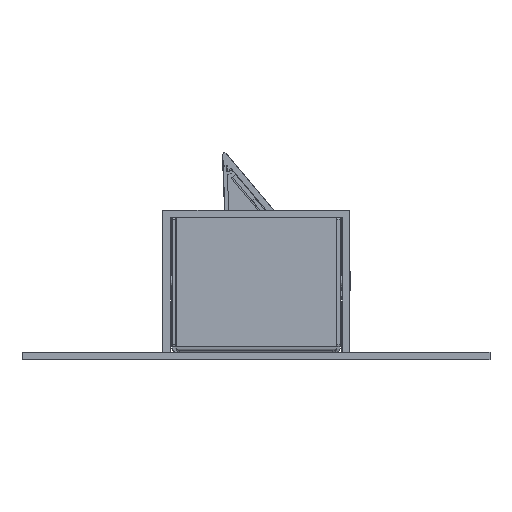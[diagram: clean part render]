
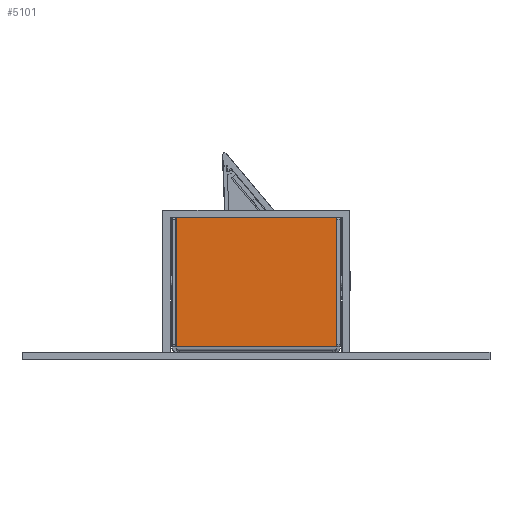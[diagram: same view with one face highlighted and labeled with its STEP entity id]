
A CAD part, left-side view. The second image highlights one B-rep face of the part: STEP entity #5101.
In plain terms, the highlighted planar face has unit normal (-1, 0, 0).
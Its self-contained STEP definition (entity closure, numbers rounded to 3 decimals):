
#269=LINE('',#7996,#709);
#273=LINE('',#8005,#713);
#274=LINE('',#8011,#714);
#275=LINE('',#8013,#715);
#709=VECTOR('',#6443,1000.);
#713=VECTOR('',#6449,1000.);
#714=VECTOR('',#6454,1000.);
#715=VECTOR('',#6455,1000.);
#1143=PLANE('',#5855);
#1327=ORIENTED_EDGE('',*,*,#2789,.F.);
#1328=ORIENTED_EDGE('',*,*,#2790,.T.);
#1329=ORIENTED_EDGE('',*,*,#2785,.F.);
#1330=ORIENTED_EDGE('',*,*,#2791,.T.);
#1331=ORIENTED_EDGE('',*,*,#2792,.T.);
#1332=ORIENTED_EDGE('',*,*,#2793,.T.);
#2785=EDGE_CURVE('',#3516,#3517,#269,.T.);
#2789=EDGE_CURVE('',#3520,#3521,#273,.T.);
#2790=EDGE_CURVE('',#3520,#3517,#3998,.T.);
#2791=EDGE_CURVE('',#3516,#3522,#3999,.T.);
#2792=EDGE_CURVE('',#3522,#3523,#274,.T.);
#2793=EDGE_CURVE('',#3523,#3521,#275,.T.);
#3516=VERTEX_POINT('',#7997);
#3517=VERTEX_POINT('',#7998);
#3520=VERTEX_POINT('',#8006);
#3521=VERTEX_POINT('',#8007);
#3522=VERTEX_POINT('',#8010);
#3523=VERTEX_POINT('',#8012);
#3998=CIRCLE('',#5856,0.5);
#3999=CIRCLE('',#5857,0.5);
#4208=EDGE_LOOP('',(#1327,#1328,#1329,#1330,#1331,#1332));
#4605=FACE_BOUND('',#4208,.T.);
#5101=ADVANCED_FACE('',(#4605),#1143,.F.);
#5855=AXIS2_PLACEMENT_3D('',#8004,#6447,#6448);
#5856=AXIS2_PLACEMENT_3D('',#8008,#6450,#6451);
#5857=AXIS2_PLACEMENT_3D('',#8009,#6452,#6453);
#6443=DIRECTION('',(0.,-1.,0.));
#6447=DIRECTION('',(1.,0.,0.));
#6448=DIRECTION('',(0.,1.,0.));
#6449=DIRECTION('',(0.,0.,-1.));
#6450=DIRECTION('',(-1.,0.,0.));
#6451=DIRECTION('',(0.,0.,-1.));
#6452=DIRECTION('',(-1.,0.,0.));
#6453=DIRECTION('',(0.,0.,-1.));
#6454=DIRECTION('',(0.,0.,-1.));
#6455=DIRECTION('',(0.,-1.,0.));
#7996=CARTESIAN_POINT('',(-15.,-22.5,36.5));
#7997=CARTESIAN_POINT('',(-15.,20.9,36.5));
#7998=CARTESIAN_POINT('',(-15.,-20.9,36.5));
#8004=CARTESIAN_POINT('',(-15.,-22.5,36.5));
#8005=CARTESIAN_POINT('',(-15.,-21.4,36.5));
#8006=CARTESIAN_POINT('',(-15.,-21.4,36.));
#8007=CARTESIAN_POINT('',(-15.,-21.4,2.));
#8008=CARTESIAN_POINT('',(-15.,-20.9,36.));
#8009=CARTESIAN_POINT('',(-15.,20.9,36.));
#8010=CARTESIAN_POINT('',(-15.,21.4,36.));
#8011=CARTESIAN_POINT('',(-15.,21.4,36.5));
#8012=CARTESIAN_POINT('',(-15.,21.4,2.));
#8013=CARTESIAN_POINT('',(-15.,-20.5,2.));
